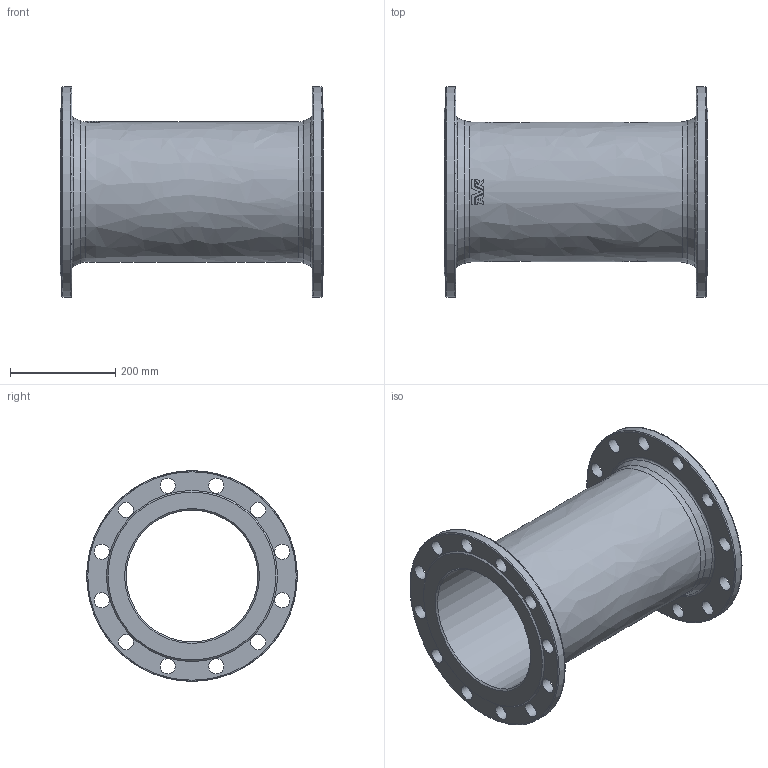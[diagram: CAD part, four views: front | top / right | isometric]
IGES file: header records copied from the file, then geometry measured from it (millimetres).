
Start section: SolidWorks IGES file using analytic representation for surfaces
Global section: file name: \\avksan2\techshare\PBM outline export from Enovia\O_712_4810_DN250_1X_REV01.igs; native system: SolidWorks 2019; preprocessor: SolidWorks 2019; author: pbm; date: 211201.114618; units: millimetre
Bounding box: 500 x 400 x 400 mm (x, y, z)
Surface area: 1107564.3 mm2 (no closed solid volume)
Topology: 0 solids, 0 shells, 89 faces, 438 edges, 395 vertices
Faces by surface type: revolution 46, bspline 43
